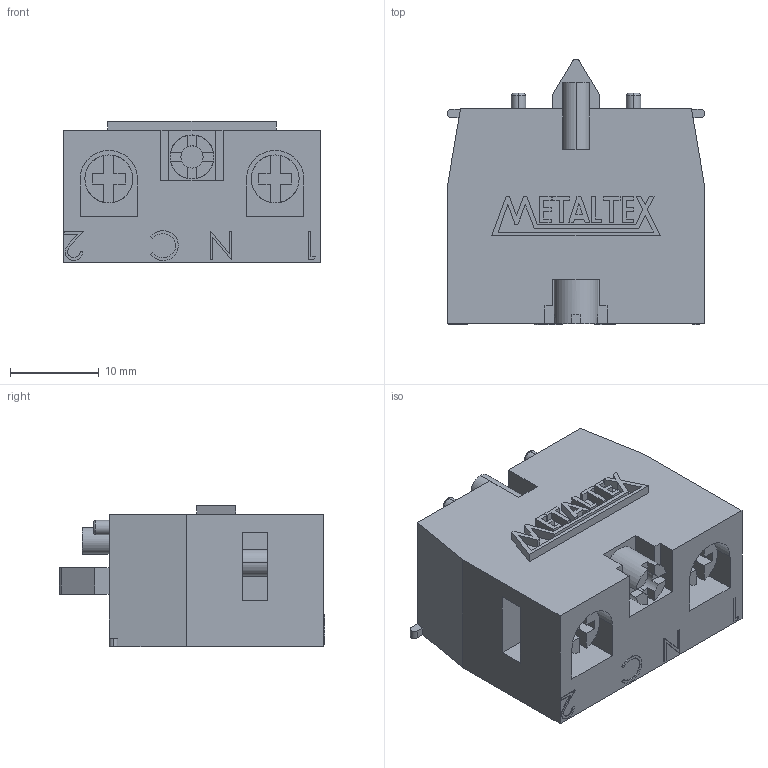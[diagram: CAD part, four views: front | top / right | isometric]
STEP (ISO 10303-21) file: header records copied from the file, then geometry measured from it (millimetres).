
FILE_DESCRIPTION (( 'STEP AP203' ), '1' );
FILE_NAME ('M20-1B.STEP', '2018-01-17T13:42:05', ( '' ), ( '' ), 'SwSTEP 2.0', 'SolidWorks 2012', '' );
FILE_SCHEMA (( 'CONFIG_CONTROL_DESIGN' ));
Length unit declared in the file: millimetre
Products named in the file (3): M20-1B; METALTEX 18,98
Assembly tree (2 placements, depth 2):
  M20-1B
    M20-1B
    METALTEX 18,98
Bounding box: 29 x 29.9 x 15.9 mm (x, y, z)
Volume: 9619.1 mm3; surface area: 4293.7 mm2
Topology: 8 solids, 8 shells, 261 faces, 689 edges, 458 vertices
Faces by surface type: plane 217, cylinder 25, bspline 15, torus 4
Entity records: 9194 total; most frequent: CARTESIAN_POINT 2428, ORIENTED_EDGE 1378, DIRECTION 1245, EDGE_CURVE 689, LINE 575, VECTOR 575, VERTEX_POINT 458, AXIS2_PLACEMENT_3D 335
